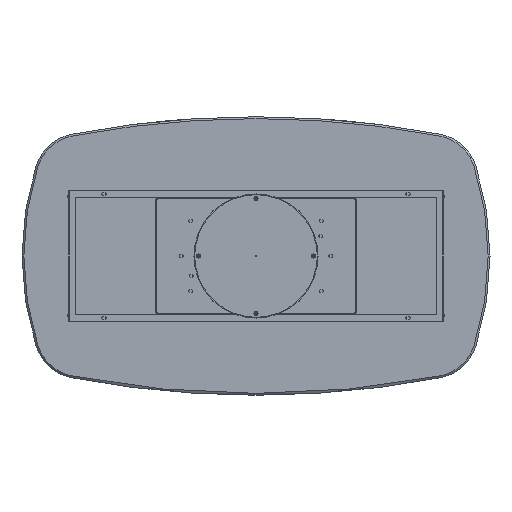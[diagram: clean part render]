
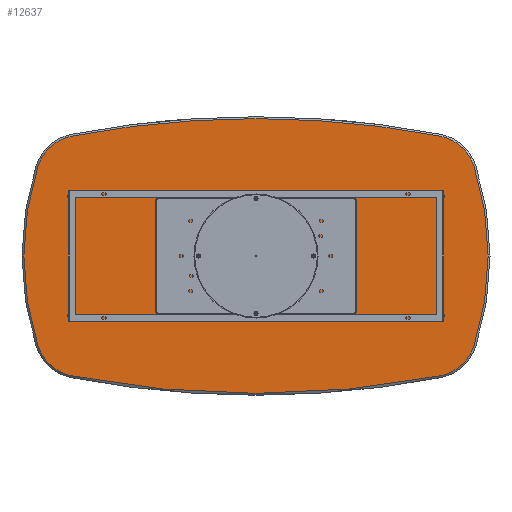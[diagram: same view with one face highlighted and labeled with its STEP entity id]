
A CAD part, front view. The second image highlights one B-rep face of the part: STEP entity #12637.
In plain terms, the highlighted planar face has unit normal (0, -1, 0).
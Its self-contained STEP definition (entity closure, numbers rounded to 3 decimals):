
#264 = AXIS2_PLACEMENT_3D ( 'NONE', #7880, #6234, #2374 ) ;
#347 = EDGE_CURVE ( 'NONE', #2793, #5589, #1423, .T. ) ;
#835 = EDGE_CURVE ( 'NONE', #8731, #8473, #12977, .T. ) ;
#846 = CARTESIAN_POINT ( 'NONE',  ( 0., 0., -3605. ) ) ;
#953 = CARTESIAN_POINT ( 'NONE',  ( 785.163, 0., -512.813 ) ) ;
#999 = CARTESIAN_POINT ( 'NONE',  ( -130., 0., 1802.5 ) ) ;
#1002 = ORIENTED_EDGE ( 'NONE', *, *, #12553, .T. ) ;
#1372 = EDGE_CURVE ( 'NONE', #3851, #3091, #6193, .T. ) ;
#1423 = CIRCLE ( 'NONE', #264, 1252. ) ;
#1713 = DIRECTION ( 'NONE',  ( 0., 0., 1. ) ) ;
#2229 = PLANE ( 'NONE',  #12839 ) ;
#2374 = DIRECTION ( 'NONE',  ( 0., 0., 1. ) ) ;
#2469 = EDGE_CURVE ( 'NONE', #11434, #8731, #6097, .T. ) ;
#2776 = CARTESIAN_POINT ( 'NONE',  ( -932., 0., 382.936 ) ) ;
#2793 = VERTEX_POINT ( 'NONE', #4924 ) ;
#2828 = AXIS2_PLACEMENT_3D ( 'NONE', #4443, #9958, #14205 ) ;
#2879 = DIRECTION ( 'NONE',  ( 0., 0., 1. ) ) ;
#2932 = DIRECTION ( 'NONE',  ( 0., 0., 1. ) ) ;
#3069 = CARTESIAN_POINT ( 'NONE',  ( -749.201, 0., 324.211 ) ) ;
#3091 = VERTEX_POINT ( 'NONE', #953 ) ;
#3097 = CARTESIAN_POINT ( 'NONE',  ( 749.201, 0., -324.211 ) ) ;
#3246 = DIRECTION ( 'NONE',  ( 0., -1., 0. ) ) ;
#3500 = DIRECTION ( 'NONE',  ( 0., 0., 1. ) ) ;
#3506 = CARTESIAN_POINT ( 'NONE',  ( -932., 0., -382.936 ) ) ;
#3744 = DIRECTION ( 'NONE',  ( 0., 0., 1. ) ) ;
#3851 = VERTEX_POINT ( 'NONE', #11037 ) ;
#3896 = DIRECTION ( 'NONE',  ( 0., -1., 0. ) ) ;
#3984 = CARTESIAN_POINT ( 'NONE',  ( -785.163, 0., 512.813 ) ) ;
#4025 = VERTEX_POINT ( 'NONE', #6702 ) ;
#4443 = CARTESIAN_POINT ( 'NONE',  ( 260., 0., 0. ) ) ;
#4489 = ORIENTED_EDGE ( 'NONE', *, *, #9171, .T. ) ;
#4525 = AXIS2_PLACEMENT_3D ( 'NONE', #8317, #13652, #3744 ) ;
#4748 = ORIENTED_EDGE ( 'NONE', *, *, #2469, .T. ) ;
#4924 = CARTESIAN_POINT ( 'NONE',  ( 932., 0., -382.936 ) ) ;
#5401 = DIRECTION ( 'NONE',  ( 0., 1., 0. ) ) ;
#5589 = VERTEX_POINT ( 'NONE', #7202 ) ;
#5629 = CIRCLE ( 'NONE', #10955, 192. ) ;
#5980 = ORIENTED_EDGE ( 'NONE', *, *, #6589, .T. ) ;
#6097 = CIRCLE ( 'NONE', #10029, 192. ) ;
#6193 = CIRCLE ( 'NONE', #14264, 4192. ) ;
#6234 = DIRECTION ( 'NONE',  ( 0., -1., 0. ) ) ;
#6501 = FACE_OUTER_BOUND ( 'NONE', #13551, .T. ) ;
#6589 = EDGE_CURVE ( 'NONE', #4025, #11434, #9884, .T. ) ;
#6702 = CARTESIAN_POINT ( 'NONE',  ( 0., 0., 587. ) ) ;
#7202 = CARTESIAN_POINT ( 'NONE',  ( 932., 0., 382.936 ) ) ;
#7357 = ORIENTED_EDGE ( 'NONE', *, *, #7368, .T. ) ;
#7368 = EDGE_CURVE ( 'NONE', #5589, #12470, #8837, .T. ) ;
#7562 = DIRECTION ( 'NONE',  ( 0., -1., 0. ) ) ;
#7659 = DIRECTION ( 'NONE',  ( 0., 0., 1. ) ) ;
#7880 = CARTESIAN_POINT ( 'NONE',  ( -260., 0., 0. ) ) ;
#8034 = ORIENTED_EDGE ( 'NONE', *, *, #12655, .T. ) ;
#8305 = DIRECTION ( 'NONE',  ( 0., -1., 0. ) ) ;
#8317 = CARTESIAN_POINT ( 'NONE',  ( 0., 0., -3605. ) ) ;
#8377 = DIRECTION ( 'NONE',  ( 0., -1., 0. ) ) ;
#8473 = VERTEX_POINT ( 'NONE', #3506 ) ;
#8731 = VERTEX_POINT ( 'NONE', #2776 ) ;
#8837 = CIRCLE ( 'NONE', #10905, 192. ) ;
#9171 = EDGE_CURVE ( 'NONE', #8473, #3851, #5629, .T. ) ;
#9410 = DIRECTION ( 'NONE',  ( 0., 0., 1. ) ) ;
#9884 = CIRCLE ( 'NONE', #12651, 4192. ) ;
#9958 = DIRECTION ( 'NONE',  ( 0., -1., 0. ) ) ;
#10029 = AXIS2_PLACEMENT_3D ( 'NONE', #3069, #7562, #2932 ) ;
#10759 = CARTESIAN_POINT ( 'NONE',  ( -749.201, 0., -324.211 ) ) ;
#10869 = ORIENTED_EDGE ( 'NONE', *, *, #347, .T. ) ;
#10905 = AXIS2_PLACEMENT_3D ( 'NONE', #12319, #13399, #3500 ) ;
#10955 = AXIS2_PLACEMENT_3D ( 'NONE', #10759, #3896, #9410 ) ;
#11037 = CARTESIAN_POINT ( 'NONE',  ( -785.163, 0., -512.813 ) ) ;
#11231 = CIRCLE ( 'NONE', #4525, 4192. ) ;
#11434 = VERTEX_POINT ( 'NONE', #3984 ) ;
#11692 = CIRCLE ( 'NONE', #13988, 192. ) ;
#11714 = ORIENTED_EDGE ( 'NONE', *, *, #835, .T. ) ;
#12319 = CARTESIAN_POINT ( 'NONE',  ( 749.201, 0., 324.211 ) ) ;
#12470 = VERTEX_POINT ( 'NONE', #13865 ) ;
#12553 = EDGE_CURVE ( 'NONE', #12470, #4025, #11231, .T. ) ;
#12637 = ADVANCED_FACE ( 'NONE', ( #6501 ), #2229, .F. ) ;
#12651 = AXIS2_PLACEMENT_3D ( 'NONE', #846, #8377, #2879 ) ;
#12655 = EDGE_CURVE ( 'NONE', #3091, #2793, #11692, .T. ) ;
#12839 = AXIS2_PLACEMENT_3D ( 'NONE', #999, #5401, #12934 ) ;
#12934 = DIRECTION ( 'NONE',  ( 0., 0., 1. ) ) ;
#12977 = CIRCLE ( 'NONE', #2828, 1252. ) ;
#13196 = ORIENTED_EDGE ( 'NONE', *, *, #1372, .T. ) ;
#13399 = DIRECTION ( 'NONE',  ( 0., -1., 0. ) ) ;
#13551 = EDGE_LOOP ( 'NONE', ( #4489, #13196, #8034, #10869, #7357, #1002, #5980, #4748, #11714 ) ) ;
#13643 = CARTESIAN_POINT ( 'NONE',  ( 0., 0., 3605. ) ) ;
#13652 = DIRECTION ( 'NONE',  ( 0., -1., 0. ) ) ;
#13865 = CARTESIAN_POINT ( 'NONE',  ( 785.163, 0., 512.813 ) ) ;
#13988 = AXIS2_PLACEMENT_3D ( 'NONE', #3097, #3246, #7659 ) ;
#14205 = DIRECTION ( 'NONE',  ( 0., 0., 1. ) ) ;
#14264 = AXIS2_PLACEMENT_3D ( 'NONE', #13643, #8305, #1713 ) ;
